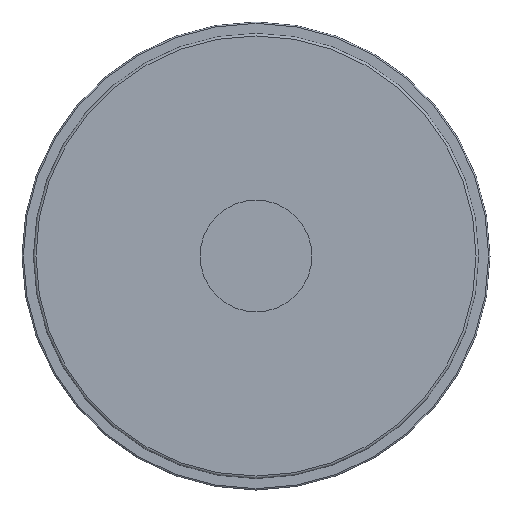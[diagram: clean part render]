
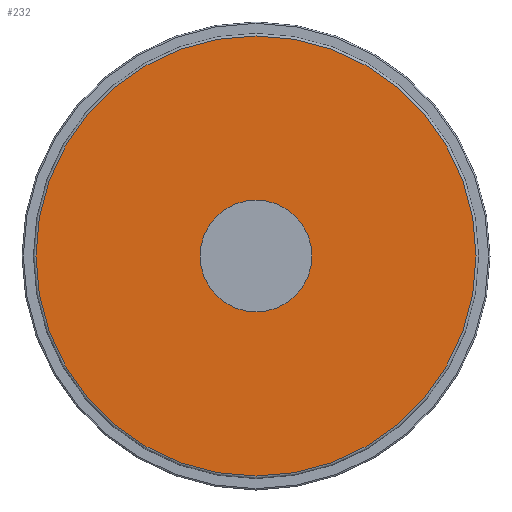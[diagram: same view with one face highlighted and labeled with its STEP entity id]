
A CAD part, left-side view. The second image highlights one B-rep face of the part: STEP entity #232.
In plain terms, the highlighted planar face has unit normal (-1, 0, 0).
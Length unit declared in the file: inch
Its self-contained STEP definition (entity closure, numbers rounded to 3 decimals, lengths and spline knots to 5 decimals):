
#46=FACE_BOUND('',#75,.T.);
#52=PLANE('',#281);
#62=FACE_OUTER_BOUND('',#74,.T.);
#74=EDGE_LOOP('',(#193,#194));
#75=EDGE_LOOP('',(#195));
#89=CIRCLE('',#258,0.6575);
#103=CIRCLE('',#277,2.586);
#104=CIRCLE('',#278,2.586);
#111=VERTEX_POINT('',#404);
#124=VERTEX_POINT('',#437);
#125=VERTEX_POINT('',#439);
#132=EDGE_CURVE('',#111,#111,#89,.T.);
#147=EDGE_CURVE('',#124,#125,#103,.T.);
#148=EDGE_CURVE('',#125,#124,#104,.T.);
#193=ORIENTED_EDGE('',*,*,#148,.F.);
#194=ORIENTED_EDGE('',*,*,#147,.F.);
#195=ORIENTED_EDGE('',*,*,#132,.T.);
#232=ADVANCED_FACE('',(#62,#46),#52,.T.);
#258=AXIS2_PLACEMENT_3D('',#406,#309,#310);
#277=AXIS2_PLACEMENT_3D('',#440,#348,#349);
#278=AXIS2_PLACEMENT_3D('',#441,#350,#351);
#281=AXIS2_PLACEMENT_3D('',#445,#357,#358);
#309=DIRECTION('center_axis',(1.,0.,0.));
#310=DIRECTION('ref_axis',(0.,0.,-1.));
#348=DIRECTION('center_axis',(1.,0.,0.));
#349=DIRECTION('ref_axis',(0.,-1.,0.));
#350=DIRECTION('center_axis',(1.,0.,0.));
#351=DIRECTION('ref_axis',(0.,-1.,0.));
#357=DIRECTION('center_axis',(-1.,0.,0.));
#358=DIRECTION('ref_axis',(0.,0.,1.));
#404=CARTESIAN_POINT('',(0.,0.,0.6575));
#406=CARTESIAN_POINT('Origin',(0.,0.,0.));
#437=CARTESIAN_POINT('',(0.,0.,2.586));
#439=CARTESIAN_POINT('',(0.,2.586,0.));
#440=CARTESIAN_POINT('Origin',(0.,0.,0.));
#441=CARTESIAN_POINT('Origin',(0.,0.,0.));
#445=CARTESIAN_POINT('Origin',(0.,2.616,0.));
